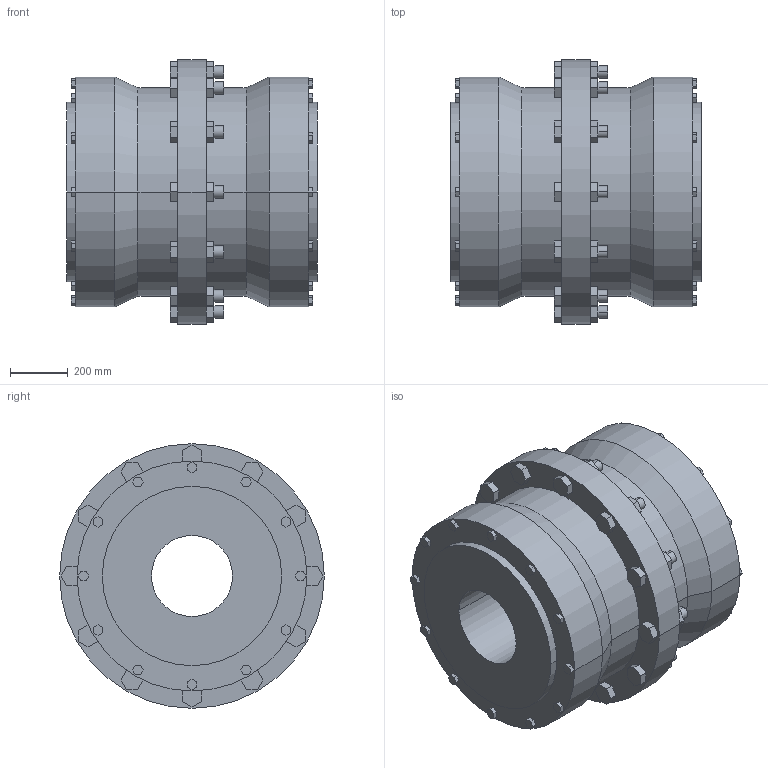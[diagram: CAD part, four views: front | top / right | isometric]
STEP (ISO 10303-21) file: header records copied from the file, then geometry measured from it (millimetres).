
FILE_DESCRIPTION((''),'2;1');
FILE_NAME('A18987300-0_ASM','2018-09-26T',('AB_Roschiwal'),('RENK AG'),'PRO/ENGINEER BY PARAMETRIC TECHNOLOGY CORPORATION, 2015440','PRO/ENGINEER BY PARAMETRIC TECHNOLOGY CORPORATION, 2015440','');
FILE_SCHEMA(('CONFIG_CONTROL_DESIGN'));
Length unit declared in the file: millimetre
Products named in the file (3): SBK375_GEHAEUSE; SBK375_NABE; A18987300-0_ASM
Assembly tree (3 placements, depth 2):
  A18987300-0_ASM
    SBK375_GEHAEUSE
    SBK375_NABE  x2
Bounding box: 865 x 915 x 915 mm (x, y, z)
Volume: 332409622.3 mm3; surface area: 8290617.8 mm2
Topology: 3 solids, 3 shells, 422 faces, 1036 edges, 688 vertices
Faces by surface type: plane 362, cylinder 56, cone 4
Entity records: 12052 total; most frequent: CARTESIAN_POINT 2100, ORIENTED_EDGE 2024, DIRECTION 1940, EDGE_CURVE 1012, VECTOR 916, LINE 916, VERTEX_POINT 672, AXIS2_PLACEMENT_3D 512
